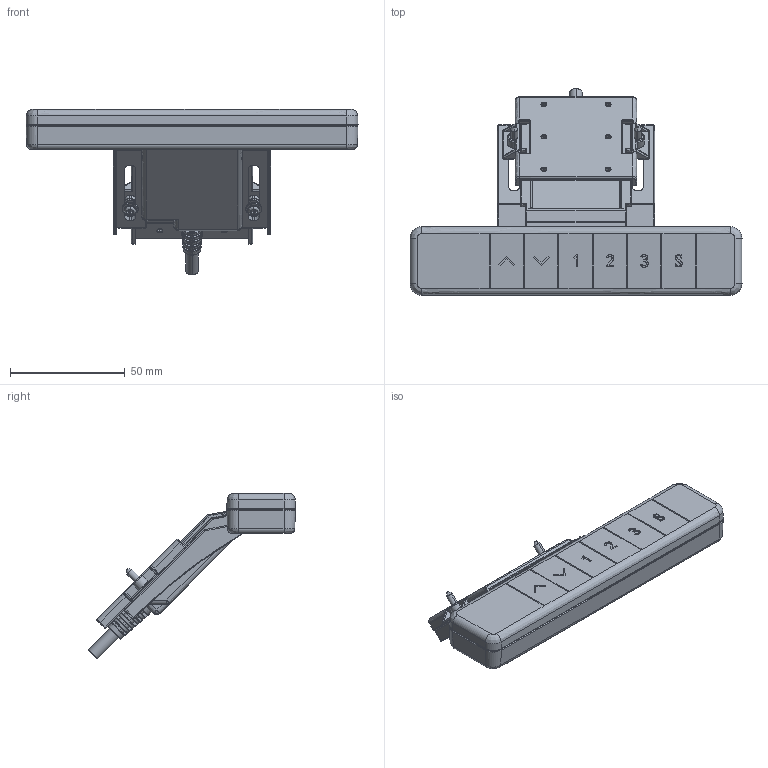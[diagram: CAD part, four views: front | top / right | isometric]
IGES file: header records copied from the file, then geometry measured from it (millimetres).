
Start section: SolidWorks IGES file using NURBS representation for surfaces
Global section: file name: C:\Users\lynn\Desktop\DP07without USB.IGS; native system: SolidWorks 2015; preprocessor: SolidWorks 2015; author: lynn; date: 200617.092342; units: millimetre
Bounding box: 144.98 x 90.34 x 72.37 mm (x, y, z)
Surface area: 53255.7 mm2 (no closed solid volume)
Topology: 0 solids, 0 shells, 1414 faces, 12569 edges, 12437 vertices
Faces by surface type: bspline 1414
